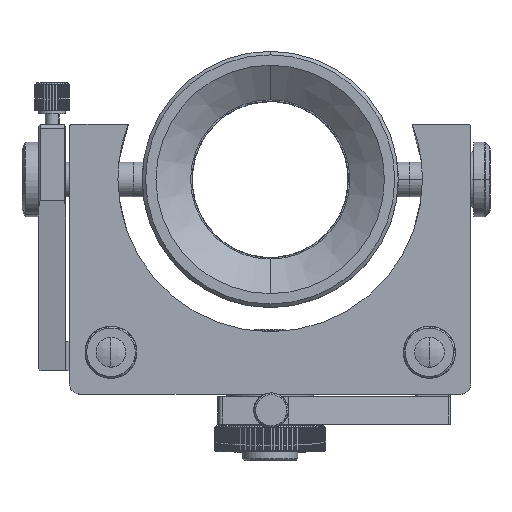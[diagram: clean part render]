
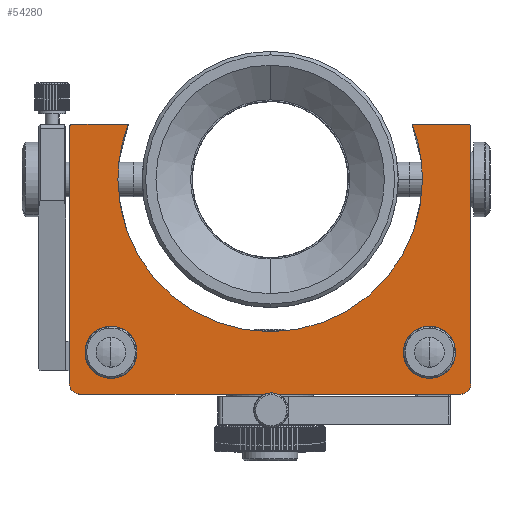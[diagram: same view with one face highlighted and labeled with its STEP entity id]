
A CAD part, top view. The second image highlights one B-rep face of the part: STEP entity #54280.
In plain terms, the highlighted planar face has unit normal (0, 0, 1).
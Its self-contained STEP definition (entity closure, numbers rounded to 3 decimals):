
#9580 = CIRCLE ( 'NONE', #149350, 44. ) ;
#9638 = VECTOR ( 'NONE', #25243, 1000. ) ;
#9649 = CIRCLE ( 'NONE', #149290, 5.025 ) ;
#9676 = CIRCLE ( 'NONE', #149426, 5.025 ) ;
#9688 = CIRCLE ( 'NONE', #149348, 44. ) ;
#9701 = LINE ( 'NONE', #25241, #9638 ) ;
#9714 = CIRCLE ( 'NONE', #149318, 44. ) ;
#9788 = CIRCLE ( 'NONE', #149419, 3. ) ;
#9812 = LINE ( 'NONE', #25516, #9849 ) ;
#9818 = CIRCLE ( 'NONE', #149412, 1. ) ;
#9831 = VECTOR ( 'NONE', #25538, 1000. ) ;
#9838 = CIRCLE ( 'NONE', #149330, 1. ) ;
#9849 = VECTOR ( 'NONE', #25456, 1000. ) ;
#9851 = LINE ( 'NONE', #25575, #9831 ) ;
#9914 = VECTOR ( 'NONE', #25625, 1000. ) ;
#9923 = VECTOR ( 'NONE', #25746, 1000. ) ;
#9948 = LINE ( 'NONE', #25750, #9923 ) ;
#9988 = CIRCLE ( 'NONE', #149431, 5.025 ) ;
#9993 = LINE ( 'NONE', #25688, #9914 ) ;
#10015 = CIRCLE ( 'NONE', #149524, 5.025 ) ;
#10019 = CIRCLE ( 'NONE', #149510, 3. ) ;
#16096 = VERTEX_POINT ( 'NONE', #47754 ) ;
#16156 = VERTEX_POINT ( 'NONE', #54440 ) ;
#24900 = CARTESIAN_POINT ( 'NONE',  ( -67.754, 20.14, 13. ) ) ;
#24942 = DIRECTION ( 'NONE',  ( 1., 0., 0. ) ) ;
#24970 = DIRECTION ( 'NONE',  ( 0., 0., 1. ) ) ;
#24982 = DIRECTION ( 'NONE',  ( 0., 0., 1. ) ) ;
#24984 = DIRECTION ( 'NONE',  ( 1., 0., 0. ) ) ;
#25031 = CARTESIAN_POINT ( 'NONE',  ( -113.754, -29.86, 13. ) ) ;
#25045 = DIRECTION ( 'NONE',  ( 0., 0., 1. ) ) ;
#25071 = CARTESIAN_POINT ( 'NONE',  ( -67.754, 20.14, 13. ) ) ;
#25081 = DIRECTION ( 'NONE',  ( 1., 0., 0. ) ) ;
#25112 = DIRECTION ( 'NONE',  ( 1., 0., 0. ) ) ;
#25139 = DIRECTION ( 'NONE',  ( 0., 0., 1. ) ) ;
#25144 = CARTESIAN_POINT ( 'NONE',  ( -21.754, -29.86, 13. ) ) ;
#25210 = CARTESIAN_POINT ( 'NONE',  ( -67.754, 20.14, 13. ) ) ;
#25241 = CARTESIAN_POINT ( 'NONE',  ( -72.291, -41.86, 13. ) ) ;
#25243 = DIRECTION ( 'NONE',  ( 1., 0., 0. ) ) ;
#25247 = DIRECTION ( 'NONE',  ( 0., 0., 1. ) ) ;
#25248 = DIRECTION ( 'NONE',  ( 1., 0., 0. ) ) ;
#25456 = DIRECTION ( 'NONE',  ( 1., 0., 0. ) ) ;
#25472 = DIRECTION ( 'NONE',  ( 1., 0., 0. ) ) ;
#25506 = CARTESIAN_POINT ( 'NONE',  ( -10.754, 35.14, 13. ) ) ;
#25516 = CARTESIAN_POINT ( 'NONE',  ( -72.291, 36.14, 13. ) ) ;
#25525 = DIRECTION ( 'NONE',  ( 0., 0., 1. ) ) ;
#25538 = DIRECTION ( 'NONE',  ( 1., 0., 0. ) ) ;
#25548 = DIRECTION ( 'NONE',  ( 0., 0., 1. ) ) ;
#25551 = DIRECTION ( 'NONE',  ( 1., 0., 0. ) ) ;
#25565 = CARTESIAN_POINT ( 'NONE',  ( -124.754, 35.14, 13. ) ) ;
#25574 = DIRECTION ( 'NONE',  ( 1., 0., 0. ) ) ;
#25575 = CARTESIAN_POINT ( 'NONE',  ( -72.291, 36.14, 13. ) ) ;
#25587 = DIRECTION ( 'NONE',  ( 0., 0., 1. ) ) ;
#25598 = CARTESIAN_POINT ( 'NONE',  ( -122.754, -38.86, 13. ) ) ;
#25625 = DIRECTION ( 'NONE',  ( 0., -1., 0. ) ) ;
#25634 = DIRECTION ( 'NONE',  ( 0., 0., 1. ) ) ;
#25636 = DIRECTION ( 'NONE',  ( 1., 0., 0. ) ) ;
#25640 = CARTESIAN_POINT ( 'NONE',  ( -113.754, -29.86, 13. ) ) ;
#25656 = DIRECTION ( 'NONE',  ( 1., 0., 0. ) ) ;
#25658 = DIRECTION ( 'NONE',  ( 0., 0., 1. ) ) ;
#25675 = CARTESIAN_POINT ( 'NONE',  ( -21.754, -29.86, 13. ) ) ;
#25688 = CARTESIAN_POINT ( 'NONE',  ( -125.754, 0.619, 13. ) ) ;
#25710 = DIRECTION ( 'NONE',  ( 0., 0., 1. ) ) ;
#25730 = CARTESIAN_POINT ( 'NONE',  ( -12.754, -38.86, 13. ) ) ;
#25746 = DIRECTION ( 'NONE',  ( 0., -1., 0. ) ) ;
#25750 = CARTESIAN_POINT ( 'NONE',  ( -9.754, 0.619, 13. ) ) ;
#25784 = DIRECTION ( 'NONE',  ( 1., 0., 0. ) ) ;
#47754 = CARTESIAN_POINT ( 'NONE',  ( -108.729, -29.86, 13. ) ) ;
#54280 = ADVANCED_FACE ( 'NONE', ( #109967, #109914, #109921 ), #154742, .T. ) ;
#54440 = CARTESIAN_POINT ( 'NONE',  ( -118.779, -29.86, 13. ) ) ;
#82172 = EDGE_LOOP ( 'NONE', ( #165665, #165692, #165653, #165654, #165649, #165693, #165695, #165642, #165675, #165656, #165666, #165643 ) ) ;
#82189 = EDGE_LOOP ( 'NONE', ( #165669, #165690 ) ) ;
#82212 = EDGE_LOOP ( 'NONE', ( #165671, #165694 ) ) ;
#109914 = FACE_BOUND ( 'NONE', #82212, .T. ) ;
#109921 = FACE_OUTER_BOUND ( 'NONE', #82172, .T. ) ;
#109967 = FACE_BOUND ( 'NONE', #82189, .T. ) ;
#149290 = AXIS2_PLACEMENT_3D ( 'NONE', #25031, #25045, #24984 ) ;
#149318 = AXIS2_PLACEMENT_3D ( 'NONE', #25210, #25247, #25248 ) ;
#149330 = AXIS2_PLACEMENT_3D ( 'NONE', #25565, #25587, #25574 ) ;
#149348 = AXIS2_PLACEMENT_3D ( 'NONE', #25071, #24982, #25112 ) ;
#149350 = AXIS2_PLACEMENT_3D ( 'NONE', #24900, #24970, #24942 ) ;
#149412 = AXIS2_PLACEMENT_3D ( 'NONE', #25506, #25525, #25472 ) ;
#149419 = AXIS2_PLACEMENT_3D ( 'NONE', #25598, #25548, #25551 ) ;
#149426 = AXIS2_PLACEMENT_3D ( 'NONE', #25144, #25139, #25081 ) ;
#149431 = AXIS2_PLACEMENT_3D ( 'NONE', #25640, #25634, #25656 ) ;
#149510 = AXIS2_PLACEMENT_3D ( 'NONE', #25730, #25710, #25784 ) ;
#149524 = AXIS2_PLACEMENT_3D ( 'NONE', #25675, #25658, #25636 ) ;
#151048 = VERTEX_POINT ( 'NONE', #161514 ) ;
#151105 = VERTEX_POINT ( 'NONE', #161713 ) ;
#151127 = VERTEX_POINT ( 'NONE', #161716 ) ;
#151135 = VERTEX_POINT ( 'NONE', #161622 ) ;
#151166 = VERTEX_POINT ( 'NONE', #161613 ) ;
#151219 = VERTEX_POINT ( 'NONE', #161670 ) ;
#151234 = VERTEX_POINT ( 'NONE', #161696 ) ;
#151239 = VERTEX_POINT ( 'NONE', #161736 ) ;
#151243 = VERTEX_POINT ( 'NONE', #161731 ) ;
#151247 = VERTEX_POINT ( 'NONE', #161705 ) ;
#151304 = VERTEX_POINT ( 'NONE', #161643 ) ;
#151383 = VERTEX_POINT ( 'NONE', #161868 ) ;
#151395 = VERTEX_POINT ( 'NONE', #161796 ) ;
#151413 = VERTEX_POINT ( 'NONE', #161859 ) ;
#151983 = AXIS2_PLACEMENT_3D ( 'NONE', #154777, #154859, #154761 ) ;
#154742 = PLANE ( 'NONE',  #151983 ) ;
#154761 = DIRECTION ( 'NONE',  ( 1., 0., 0. ) ) ;
#154777 = CARTESIAN_POINT ( 'NONE',  ( -72.291, 0.619, 13. ) ) ;
#154859 = DIRECTION ( 'NONE',  ( 0., 0., 1. ) ) ;
#155659 = EDGE_CURVE ( 'NONE', #151135, #151127, #9580, .T. ) ;
#155694 = EDGE_CURVE ( 'NONE', #16156, #16096, #9649, .T. ) ;
#155702 = EDGE_CURVE ( 'NONE', #151127, #151105, #9688, .T. ) ;
#155709 = EDGE_CURVE ( 'NONE', #151166, #151304, #9676, .T. ) ;
#155745 = EDGE_CURVE ( 'NONE', #151048, #151234, #9701, .T. ) ;
#155754 = EDGE_CURVE ( 'NONE', #151105, #151247, #9714, .T. ) ;
#155790 = EDGE_CURVE ( 'NONE', #151395, #151243, #9818, .T. ) ;
#155813 = EDGE_CURVE ( 'NONE', #151247, #151243, #9812, .T. ) ;
#155825 = EDGE_CURVE ( 'NONE', #151219, #151048, #9788, .T. ) ;
#155834 = EDGE_CURVE ( 'NONE', #151239, #151413, #9838, .T. ) ;
#155837 = EDGE_CURVE ( 'NONE', #151239, #151135, #9851, .T. ) ;
#155867 = EDGE_CURVE ( 'NONE', #151413, #151219, #9993, .T. ) ;
#155869 = EDGE_CURVE ( 'NONE', #16096, #16156, #9988, .T. ) ;
#155874 = EDGE_CURVE ( 'NONE', #151304, #151166, #10015, .T. ) ;
#155910 = EDGE_CURVE ( 'NONE', #151395, #151383, #9948, .T. ) ;
#155920 = EDGE_CURVE ( 'NONE', #151234, #151383, #10019, .T. ) ;
#161514 = CARTESIAN_POINT ( 'NONE',  ( -122.754, -41.86, 13. ) ) ;
#161613 = CARTESIAN_POINT ( 'NONE',  ( -26.779, -29.86, 13. ) ) ;
#161622 = CARTESIAN_POINT ( 'NONE',  ( -108.742, 36.14, 13. ) ) ;
#161643 = CARTESIAN_POINT ( 'NONE',  ( -16.729, -29.86, 13. ) ) ;
#161670 = CARTESIAN_POINT ( 'NONE',  ( -125.754, -38.86, 13. ) ) ;
#161696 = CARTESIAN_POINT ( 'NONE',  ( -12.754, -41.86, 13. ) ) ;
#161705 = CARTESIAN_POINT ( 'NONE',  ( -26.766, 36.14, 13. ) ) ;
#161713 = CARTESIAN_POINT ( 'NONE',  ( -23.754, 20.14, 13. ) ) ;
#161716 = CARTESIAN_POINT ( 'NONE',  ( -111.754, 20.14, 13. ) ) ;
#161731 = CARTESIAN_POINT ( 'NONE',  ( -10.754, 36.14, 13. ) ) ;
#161736 = CARTESIAN_POINT ( 'NONE',  ( -124.754, 36.14, 13. ) ) ;
#161796 = CARTESIAN_POINT ( 'NONE',  ( -9.754, 35.14, 13. ) ) ;
#161859 = CARTESIAN_POINT ( 'NONE',  ( -125.754, 35.14, 13. ) ) ;
#161868 = CARTESIAN_POINT ( 'NONE',  ( -9.754, -38.86, 13. ) ) ;
#165642 = ORIENTED_EDGE ( 'NONE', *, *, #155754, .F. ) ;
#165643 = ORIENTED_EDGE ( 'NONE', *, *, #155834, .T. ) ;
#165649 = ORIENTED_EDGE ( 'NONE', *, *, #155910, .F. ) ;
#165653 = ORIENTED_EDGE ( 'NONE', *, *, #155745, .T. ) ;
#165654 = ORIENTED_EDGE ( 'NONE', *, *, #155920, .T. ) ;
#165656 = ORIENTED_EDGE ( 'NONE', *, *, #155659, .F. ) ;
#165665 = ORIENTED_EDGE ( 'NONE', *, *, #155867, .T. ) ;
#165666 = ORIENTED_EDGE ( 'NONE', *, *, #155837, .F. ) ;
#165669 = ORIENTED_EDGE ( 'NONE', *, *, #155869, .F. ) ;
#165671 = ORIENTED_EDGE ( 'NONE', *, *, #155874, .F. ) ;
#165675 = ORIENTED_EDGE ( 'NONE', *, *, #155702, .F. ) ;
#165690 = ORIENTED_EDGE ( 'NONE', *, *, #155694, .F. ) ;
#165692 = ORIENTED_EDGE ( 'NONE', *, *, #155825, .T. ) ;
#165693 = ORIENTED_EDGE ( 'NONE', *, *, #155790, .T. ) ;
#165694 = ORIENTED_EDGE ( 'NONE', *, *, #155709, .F. ) ;
#165695 = ORIENTED_EDGE ( 'NONE', *, *, #155813, .F. ) ;
